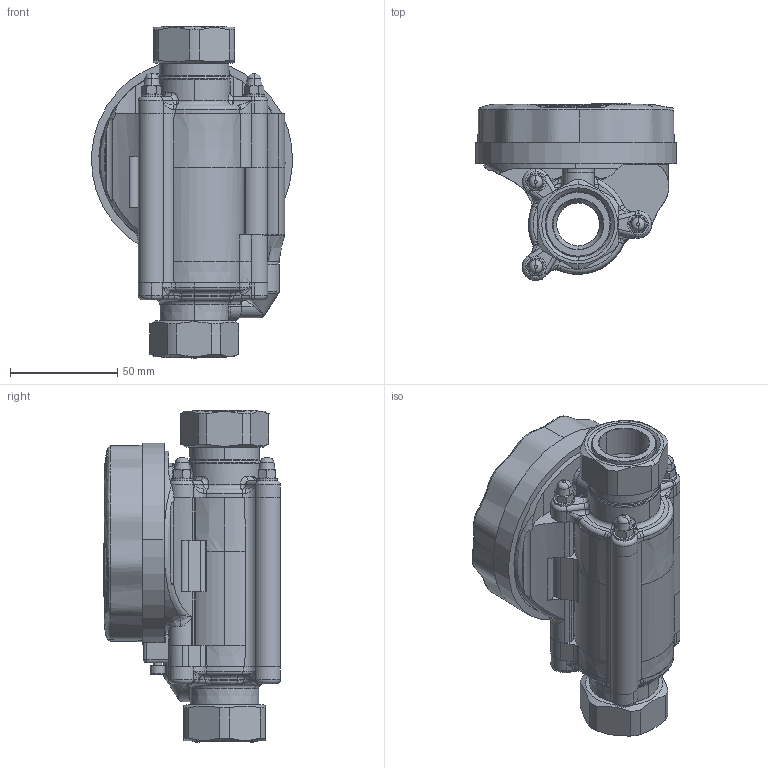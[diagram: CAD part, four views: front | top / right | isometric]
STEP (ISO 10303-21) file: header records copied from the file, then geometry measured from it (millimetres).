
FILE_DESCRIPTION (( 'STEP AP214' ), '1' );
FILE_NAME ('PAP-M025 3D.STEP', '2020-01-31T15:31:54', ( 'Windows User' ), ( 'Watts Water' ), 'SwSTEP 2.0', 'SolidWorks 2017', '' );
FILE_SCHEMA (( 'AUTOMOTIVE_DESIGN' ));
Length unit declared in the file: millimetre
Products named in the file (1): PAP-M025 3D
Bounding box: 93.93 x 82.65 x 155.08 mm (x, y, z)
Surface area: 78293.9 mm2 (no closed solid volume)
Topology: 0 solids, 33 shells, 755 faces, 2326 edges, 1547 vertices
Faces by surface type: plane 239, cylinder 197, bspline 125, torus 103, cone 71, sphere 20
Entity records: 55136 total; most frequent: CARTESIAN_POINT 27412, ORIENTED_EDGE 3974, DIRECTION 3857, EDGE_CURVE 2303, VERTEX_POINT 1545, AXIS2_PLACEMENT_3D 1514, CIRCLE 883, EDGE_LOOP 835
